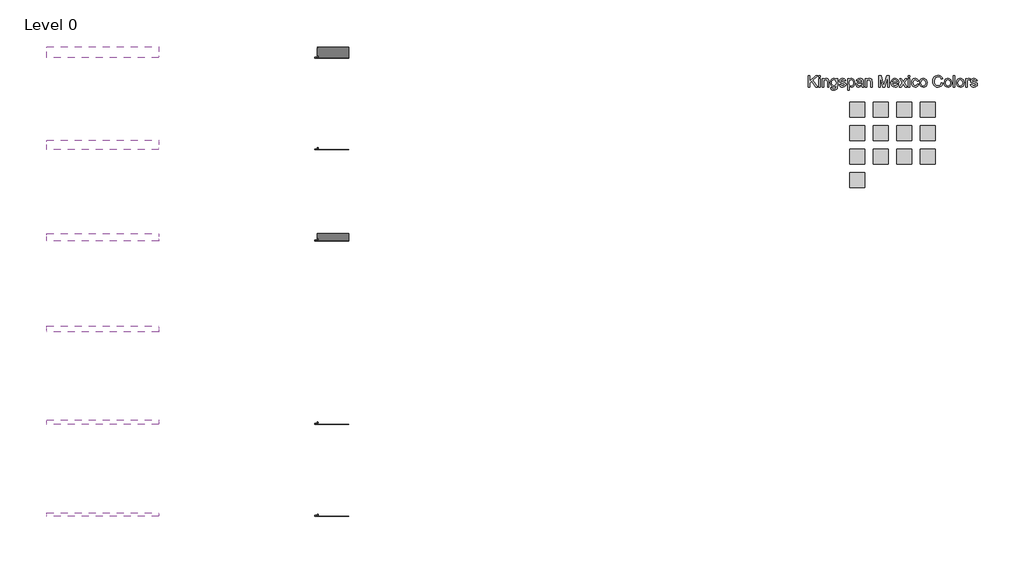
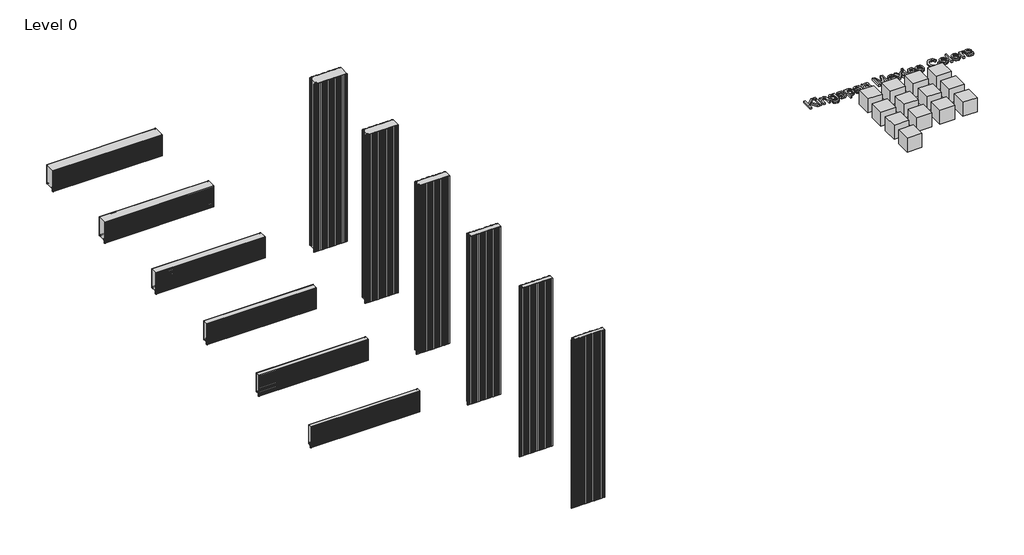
# One storey, incomplete: 14 proxies, 12 plates.
"""IFC4 building model written with IfcOpenShell, lengths in millimetres."""

from ifc_helpers import new_model, si_unit, origin, place, context, project, spatial, transform, mapped, element, save
from components import generic_models_94ed907e, ks_colour_sample_ks_colour_sample_0243efec, hz_050mm_45b77bb8, hz_060mm_977d06c2, hz_075mm_6d015572, hz_100mm_43d21306, hz_125mm_f171d79f, hz_150mm_669a072b, vt_050mm_2a4f2189, vt_060mm_25a03f9c, vt_075mm_0a597b58, vt_100mm_efa87503, vt_125mm_50f7fd7f, vt_150mm_58a6ca3a

model = new_model("IFC4")

# Units and contexts
model_context = context("Model", 3, world=origin())
ifc_project = project(units=[si_unit("LENGTHUNIT", "METRE", prefix="MILLI")], contexts=[model_context])

# Site, building, storey
site = spatial("IfcSite", under=ifc_project)
building = spatial("IfcBuilding", under=site)
storey = spatial("IfcBuildingStorey", under=building, Name="Level 0", Elevation=0.0)

# Proxies
placement = place(None, origin())
generic_models_shape = generic_models_94ed907e(model_context)
element("IfcBuildingElementProxy", 1, Name="KIP-MX_ColourRange_English : KIP-MX_ColourRange_English", ObjectType="KIP-MX_ColourRange_English : KIP-MX_ColourRange_English", at=placement, inside=storey, context=model_context, shape_type="MappedRepresentation", body=[
    mapped(generic_models_shape, transform((1966.0629502, 11802.7493823, 0.0), x_axis=(1.0, 0.0, 0.0), y_axis=(0.0, 1.0, 0.0), z_axis=(0.0, 0.0, 1.0))),
])
ks_colour_sample_ks_colour_sample_shape = ks_colour_sample_ks_colour_sample_0243efec(model_context)
element("IfcBuildingElementProxy", 2, Name="KS_Colour Sample : KS_Colour Sample", ObjectType="KS_Colour Sample : KS_Colour Sample", at=placement, inside=storey, context=model_context, shape_type="MappedRepresentation", body=[
    mapped(ks_colour_sample_ks_colour_sample_shape, transform((1501.0629502, 13781.2299273, 0.0), x_axis=(1.0, 0.0, 0.0), y_axis=(0.0, 1.0, 0.0), z_axis=(0.0, 0.0, 1.0))),
])
element("IfcBuildingElementProxy", 3, Name="KS_Colour Sample : KS_Colour Sample", ObjectType="KS_Colour Sample : KS_Colour Sample", at=placement, inside=storey, context=model_context, shape_type="MappedRepresentation", body=[
    mapped(ks_colour_sample_ks_colour_sample_shape, transform((1811.0629502, 13781.2299273, 0.0), x_axis=(1.0, 0.0, 0.0), y_axis=(0.0, 1.0, 0.0), z_axis=(0.0, 0.0, 1.0))),
])
element("IfcBuildingElementProxy", 4, Name="KS_Colour Sample : KS_Colour Sample", ObjectType="KS_Colour Sample : KS_Colour Sample", at=placement, inside=storey, context=model_context, shape_type="MappedRepresentation", body=[
    mapped(ks_colour_sample_ks_colour_sample_shape, transform((2121.0629502, 13781.2299273, 0.0), x_axis=(1.0, 0.0, 0.0), y_axis=(0.0, 1.0, 0.0), z_axis=(0.0, 0.0, 1.0))),
])
element("IfcBuildingElementProxy", 5, Name="KS_Colour Sample : KS_Colour Sample", ObjectType="KS_Colour Sample : KS_Colour Sample", at=placement, inside=storey, context=model_context, shape_type="MappedRepresentation", body=[
    mapped(ks_colour_sample_ks_colour_sample_shape, transform((2431.0629502, 13781.2299273, 0.0), x_axis=(1.0, 0.0, 0.0), y_axis=(0.0, 1.0, 0.0), z_axis=(0.0, 0.0, 1.0))),
])
element("IfcBuildingElementProxy", 6, Name="KS_Colour Sample : KS_Colour Sample", ObjectType="KS_Colour Sample : KS_Colour Sample", at=placement, inside=storey, context=model_context, shape_type="MappedRepresentation", body=[
    mapped(ks_colour_sample_ks_colour_sample_shape, transform((1501.0629502, 13471.2299273, 0.0), x_axis=(1.0, 0.0, 0.0), y_axis=(0.0, 1.0, 0.0), z_axis=(0.0, 0.0, 1.0))),
])
element("IfcBuildingElementProxy", 7, Name="KS_Colour Sample : KS_Colour Sample", ObjectType="KS_Colour Sample : KS_Colour Sample", at=placement, inside=storey, context=model_context, shape_type="MappedRepresentation", body=[
    mapped(ks_colour_sample_ks_colour_sample_shape, transform((1811.0629502, 13471.2299273, 0.0), x_axis=(1.0, 0.0, 0.0), y_axis=(0.0, 1.0, 0.0), z_axis=(0.0, 0.0, 1.0))),
])
element("IfcBuildingElementProxy", 8, Name="KS_Colour Sample : KS_Colour Sample", ObjectType="KS_Colour Sample : KS_Colour Sample", at=placement, inside=storey, context=model_context, shape_type="MappedRepresentation", body=[
    mapped(ks_colour_sample_ks_colour_sample_shape, transform((2121.0629502, 13471.2299273, 0.0), x_axis=(1.0, 0.0, 0.0), y_axis=(0.0, 1.0, 0.0), z_axis=(0.0, 0.0, 1.0))),
])
element("IfcBuildingElementProxy", 9, Name="KS_Colour Sample : KS_Colour Sample", ObjectType="KS_Colour Sample : KS_Colour Sample", at=placement, inside=storey, context=model_context, shape_type="MappedRepresentation", body=[
    mapped(ks_colour_sample_ks_colour_sample_shape, transform((2431.0629502, 13471.2299273, 0.0), x_axis=(1.0, 0.0, 0.0), y_axis=(0.0, 1.0, 0.0), z_axis=(0.0, 0.0, 1.0))),
])
element("IfcBuildingElementProxy", 10, Name="KS_Colour Sample : KS_Colour Sample", ObjectType="KS_Colour Sample : KS_Colour Sample", at=placement, inside=storey, context=model_context, shape_type="MappedRepresentation", body=[
    mapped(ks_colour_sample_ks_colour_sample_shape, transform((1501.0629502, 13161.2299273, 0.0), x_axis=(1.0, 0.0, 0.0), y_axis=(0.0, 1.0, 0.0), z_axis=(0.0, 0.0, 1.0))),
])
element("IfcBuildingElementProxy", 11, Name="KS_Colour Sample : KS_Colour Sample", ObjectType="KS_Colour Sample : KS_Colour Sample", at=placement, inside=storey, context=model_context, shape_type="MappedRepresentation", body=[
    mapped(ks_colour_sample_ks_colour_sample_shape, transform((1811.0629502, 13161.2299273, 0.0), x_axis=(1.0, 0.0, 0.0), y_axis=(0.0, 1.0, 0.0), z_axis=(0.0, 0.0, 1.0))),
])
element("IfcBuildingElementProxy", 12, Name="KS_Colour Sample : KS_Colour Sample", ObjectType="KS_Colour Sample : KS_Colour Sample", at=placement, inside=storey, context=model_context, shape_type="MappedRepresentation", body=[
    mapped(ks_colour_sample_ks_colour_sample_shape, transform((2121.0629502, 13161.2299273, 0.0), x_axis=(1.0, 0.0, 0.0), y_axis=(0.0, 1.0, 0.0), z_axis=(0.0, 0.0, 1.0))),
])
element("IfcBuildingElementProxy", 13, Name="KS_Colour Sample : KS_Colour Sample", ObjectType="KS_Colour Sample : KS_Colour Sample", at=placement, inside=storey, context=model_context, shape_type="MappedRepresentation", body=[
    mapped(ks_colour_sample_ks_colour_sample_shape, transform((2431.0629502, 13161.2299273, 0.0), x_axis=(1.0, 0.0, 0.0), y_axis=(0.0, 1.0, 0.0), z_axis=(0.0, 0.0, 1.0))),
])
element("IfcBuildingElementProxy", 14, Name="KS_Colour Sample : KS_Colour Sample", ObjectType="KS_Colour Sample : KS_Colour Sample", at=placement, inside=storey, context=model_context, shape_type="MappedRepresentation", body=[
    mapped(ks_colour_sample_ks_colour_sample_shape, transform((1501.0629502, 12851.2299273, 0.0), x_axis=(1.0, 0.0, 0.0), y_axis=(0.0, 1.0, 0.0), z_axis=(0.0, 0.0, 1.0))),
])

# Plates
hz_050mm_shape = hz_050mm_45b77bb8(model_context)
element("IfcPlate", 15, ObjectType="KIP-MEX-KSS-1067-R19-CP-Hz-MR_SL : Hz 050mm", at=placement, inside=storey, context=model_context, shape_type="MappedRepresentation", body=[
    mapped(hz_050mm_shape, transform((-8438.7250935, 8468.7418563, 2134.0), x_axis=(1.0, 0.0, 0.0), y_axis=(0.0, 1.0, 0.0), z_axis=(0.0, 0.0, 1.0))),
])
hz_060mm_shape = hz_060mm_977d06c2(model_context)
element("IfcPlate", 16, ObjectType="KIP-MEX-KSS-1067-R19-CP-Hz-MR_SL : Hz 060mm", at=placement, inside=storey, context=model_context, shape_type="MappedRepresentation", body=[
    mapped(hz_060mm_shape, transform((-8438.7250935, 9693.0962077, 2134.0), x_axis=(1.0, 0.0, 0.0), y_axis=(0.0, 1.0, 0.0), z_axis=(0.0, 0.0, 1.0))),
])
hz_075mm_shape = hz_075mm_6d015572(model_context)
element("IfcPlate", 17, ObjectType="KIP-MEX-KSS-1067-R19-CP-Hz-MR_SL : Hz 075mm", at=placement, inside=storey, context=model_context, shape_type="MappedRepresentation", body=[
    mapped(hz_075mm_shape, transform((-8438.7250935, 10927.2962077, 2134.0), x_axis=(1.0, 0.0, 0.0), y_axis=(0.0, 1.0, 0.0), z_axis=(0.0, 0.0, 1.0))),
])
hz_100mm_shape = hz_100mm_43d21306(model_context)
element("IfcPlate", 18, ObjectType="KIP-MEX-KSS-1067-R19-CP-Hz-MR_SL : Hz 100mm", at=placement, inside=storey, context=model_context, shape_type="MappedRepresentation", body=[
    mapped(hz_100mm_shape, transform((-8438.7250935, 12150.3733554, 2134.0), x_axis=(1.0, 0.0, 0.0), y_axis=(0.0, 1.0, 0.0), z_axis=(0.0, 0.0, 1.0))),
])
hz_125mm_shape = hz_125mm_f171d79f(model_context)
element("IfcPlate", 19, ObjectType="KIP-MEX-KSS-1067-R19-CP-Hz-MR_SL : Hz 125mm", at=placement, inside=storey, context=model_context, shape_type="MappedRepresentation", body=[
    mapped(hz_125mm_shape, transform((-8438.7250935, 13377.5488626, 2134.0), x_axis=(1.0, 0.0, 0.0), y_axis=(0.0, 1.0, 0.0), z_axis=(0.0, 0.0, 1.0))),
])
hz_150mm_shape = hz_150mm_669a072b(model_context)
element("IfcPlate", 20, ObjectType="KIP-MEX-KSS-1067-R19-CP-Hz-MR_SL : Hz 150mm", at=placement, inside=storey, context=model_context, shape_type="MappedRepresentation", body=[
    mapped(hz_150mm_shape, transform((-8438.7250935, 14614.4207339, 2134.0), x_axis=(1.0, 0.0, 0.0), y_axis=(0.0, 1.0, 0.0), z_axis=(0.0, 0.0, 1.0))),
])
vt_050mm_shape = vt_050mm_2a4f2189(model_context)
element("IfcPlate", 21, ObjectType="KIP-MEX-KSS-1067-R19-CP-Vt-MR_SL : Vt 050mm", at=placement, inside=storey, context=model_context, shape_type="MappedRepresentation", body=[
    mapped(vt_050mm_shape, transform((-5405.4413834, 8468.7418563, 0.0), x_axis=(1.0, 0.0, 0.0), y_axis=(0.0, 1.0, 0.0), z_axis=(0.0, 0.0, 1.0))),
])
vt_060mm_shape = vt_060mm_25a03f9c(model_context)
element("IfcPlate", 22, ObjectType="KIP-MEX-KSS-1067-R19-CP-Vt-MR_SL : Vt 060mm", at=placement, inside=storey, context=model_context, shape_type="MappedRepresentation", body=[
    mapped(vt_060mm_shape, transform((-5405.4413834, 9693.0962077, 0.0), x_axis=(1.0, 0.0, 0.0), y_axis=(0.0, 1.0, 0.0), z_axis=(0.0, 0.0, 1.0))),
])
vt_075mm_shape = vt_075mm_0a597b58(model_context)
element("IfcPlate", 23, ObjectType="KIP-MEX-KSS-1067-R19-CP-Vt-MR_SL : Vt 075mm", at=placement, inside=storey, context=model_context, shape_type="MappedRepresentation", body=[
    mapped(vt_075mm_shape, transform((-5405.4413834, 10927.2962077, 0.0), x_axis=(1.0, 0.0, 0.0), y_axis=(0.0, 1.0, 0.0), z_axis=(0.0, 0.0, 1.0))),
])
vt_100mm_shape = vt_100mm_efa87503(model_context)
element("IfcPlate", 24, ObjectType="KIP-MEX-KSS-1067-R19-CP-Vt-MR_SL : Vt 100mm", at=placement, inside=storey, context=model_context, shape_type="MappedRepresentation", body=[
    mapped(vt_100mm_shape, transform((-5405.4413834, 12150.3733554, 0.0), x_axis=(1.0, 0.0, 0.0), y_axis=(0.0, 1.0, 0.0), z_axis=(0.0, 0.0, 1.0))),
])
vt_125mm_shape = vt_125mm_50f7fd7f(model_context)
element("IfcPlate", 25, ObjectType="KIP-MEX-KSS-1067-R19-CP-Vt-MR_SL : Vt 125mm", at=placement, inside=storey, context=model_context, shape_type="MappedRepresentation", body=[
    mapped(vt_125mm_shape, transform((-5405.4413834, 13377.5488626, 0.0), x_axis=(1.0, 0.0, 0.0), y_axis=(0.0, 1.0, 0.0), z_axis=(0.0, 0.0, 1.0))),
])
vt_150mm_shape = vt_150mm_58a6ca3a(model_context)
element("IfcPlate", 26, ObjectType="KIP-MEX-KSS-1067-R19-CP-Vt-MR_SL : Vt 150mm", at=placement, inside=storey, context=model_context, shape_type="MappedRepresentation", body=[
    mapped(vt_150mm_shape, transform((-5405.4413834, 14609.2486688, 0.0), x_axis=(1.0, 0.0, 0.0), y_axis=(0.0, 1.0, 0.0), z_axis=(0.0, 0.0, 1.0))),
])

save(model, "model.ifc")
